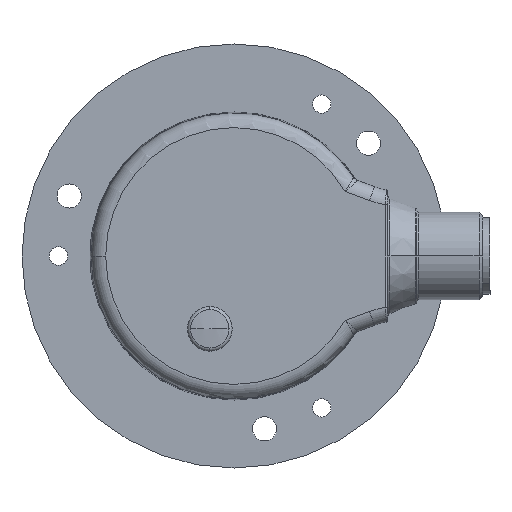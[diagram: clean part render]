
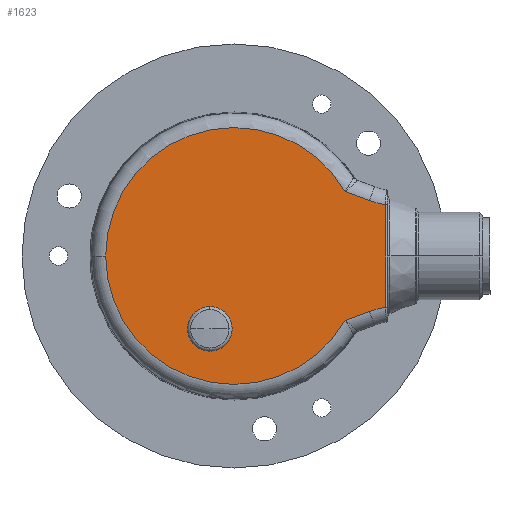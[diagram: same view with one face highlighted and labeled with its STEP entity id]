
A CAD part, left-side view. The second image highlights one B-rep face of the part: STEP entity #1623.
In plain terms, the highlighted planar face has unit normal (-1, 0, 0).
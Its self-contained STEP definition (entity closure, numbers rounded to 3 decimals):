
#195 = DIRECTION ( 'NONE',  ( -1., 0., 0. ) ) ;
#726 = DIRECTION ( 'NONE',  ( 0., 1., 0. ) ) ;
#797 = AXIS2_PLACEMENT_3D ( 'NONE', #17463, #5921, #8855 ) ;
#825 = DIRECTION ( 'NONE',  ( 0., 1., 0. ) ) ;
#1009 = FACE_OUTER_BOUND ( 'NONE', #10647, .T. ) ;
#1140 = LINE ( 'NONE', #6812, #1625 ) ;
#1284 = CARTESIAN_POINT ( 'NONE',  ( -41.6, -15.19, 8.804 ) ) ;
#1623 = ADVANCED_FACE ( 'NONE', ( #1009, #7918 ), #11155, .F. ) ;
#1625 = VECTOR ( 'NONE', #7163, 1000. ) ;
#1982 = CARTESIAN_POINT ( 'NONE',  ( -41.6, -15.19, -8.804 ) ) ;
#2181 = VERTEX_POINT ( 'NONE', #12690 ) ;
#2276 = CARTESIAN_POINT ( 'NONE',  ( -41.6, -20.75, -7.014 ) ) ;
#2326 = CIRCLE ( 'NONE', #797, 3.05 ) ;
#2546 = DIRECTION ( 'NONE',  ( 0., 1., 0. ) ) ;
#2549 = DIRECTION ( 'NONE',  ( 0., -0.94, 0.342 ) ) ;
#2642 = CARTESIAN_POINT ( 'NONE',  ( -41.6, -18.527, -7.59 ) ) ;
#2654 = DIRECTION ( 'NONE',  ( 0., 0.94, 0.342 ) ) ;
#2864 = CIRCLE ( 'NONE', #7669, 3.05 ) ;
#2911 = EDGE_CURVE ( 'NONE', #5812, #2181, #1140, .T. ) ;
#2912 = EDGE_CURVE ( 'NONE', #15222, #7705, #3753, .T. ) ;
#3134 = CARTESIAN_POINT ( 'NONE',  ( -41.6, 3.308, -9.965 ) ) ;
#3519 = VERTEX_POINT ( 'NONE', #11852 ) ;
#3714 = ORIENTED_EDGE ( 'NONE', *, *, #14957, .T. ) ;
#3753 = CIRCLE ( 'NONE', #15539, 17.557 ) ;
#3768 = DIRECTION ( 'NONE',  ( 1., 0., 0. ) ) ;
#4542 = CARTESIAN_POINT ( 'NONE',  ( -41.6, 3.308, -6.915 ) ) ;
#5215 = EDGE_CURVE ( 'NONE', #2181, #6363, #16317, .T. ) ;
#5385 = CIRCLE ( 'NONE', #17770, 12. ) ;
#5812 = VERTEX_POINT ( 'NONE', #2276 ) ;
#5901 = CARTESIAN_POINT ( 'NONE',  ( -41.6, 17.557, 0. ) ) ;
#5921 = DIRECTION ( 'NONE',  ( -1., 0., 0. ) ) ;
#6093 = ORIENTED_EDGE ( 'NONE', *, *, #8577, .T. ) ;
#6230 = DIRECTION ( 'NONE',  ( 1., 0., 0. ) ) ;
#6334 = CARTESIAN_POINT ( 'NONE',  ( -41.6, 3.308, -13.015 ) ) ;
#6363 = VERTEX_POINT ( 'NONE', #16423 ) ;
#6812 = CARTESIAN_POINT ( 'NONE',  ( -41.6, -20.75, 6.977 ) ) ;
#6902 = CARTESIAN_POINT ( 'NONE',  ( -41.6, 0., 0. ) ) ;
#7163 = DIRECTION ( 'NONE',  ( 0., 0., 1. ) ) ;
#7408 = VERTEX_POINT ( 'NONE', #6334 ) ;
#7669 = AXIS2_PLACEMENT_3D ( 'NONE', #3134, #195, #10338 ) ;
#7705 = VERTEX_POINT ( 'NONE', #1982 ) ;
#7918 = FACE_BOUND ( 'NONE', #18542, .T. ) ;
#8291 = DIRECTION ( 'NONE',  ( 1., 0., 0. ) ) ;
#8577 = EDGE_CURVE ( 'NONE', #3519, #5812, #5385, .T. ) ;
#8838 = ORIENTED_EDGE ( 'NONE', *, *, #12238, .F. ) ;
#8855 = DIRECTION ( 'NONE',  ( 0., 0., 1. ) ) ;
#8914 = EDGE_CURVE ( 'NONE', #6363, #12150, #9830, .T. ) ;
#8989 = CARTESIAN_POINT ( 'NONE',  ( -41.6, -22.631, -18.866 ) ) ;
#9815 = CARTESIAN_POINT ( 'NONE',  ( -41.6, 0., 0. ) ) ;
#9830 = LINE ( 'NONE', #15618, #17483 ) ;
#10061 = ORIENTED_EDGE ( 'NONE', *, *, #18430, .T. ) ;
#10338 = DIRECTION ( 'NONE',  ( 0., 0., 1. ) ) ;
#10647 = EDGE_LOOP ( 'NONE', ( #6093, #14851, #12179, #11188, #10061, #18460, #3714 ) ) ;
#10710 = AXIS2_PLACEMENT_3D ( 'NONE', #15326, #8291, #726 ) ;
#10872 = AXIS2_PLACEMENT_3D ( 'NONE', #18026, #3768, #825 ) ;
#11016 = EDGE_CURVE ( 'NONE', #7408, #15819, #2864, .T. ) ;
#11048 = AXIS2_PLACEMENT_3D ( 'NONE', #9815, #15603, #2546 ) ;
#11155 = PLANE ( 'NONE',  #10710 ) ;
#11188 = ORIENTED_EDGE ( 'NONE', *, *, #8914, .T. ) ;
#11852 = CARTESIAN_POINT ( 'NONE',  ( -41.6, -18.527, -7.59 ) ) ;
#12150 = VERTEX_POINT ( 'NONE', #1284 ) ;
#12179 = ORIENTED_EDGE ( 'NONE', *, *, #5215, .T. ) ;
#12238 = EDGE_CURVE ( 'NONE', #15819, #7408, #2326, .T. ) ;
#12561 = CIRCLE ( 'NONE', #11048, 17.557 ) ;
#12690 = CARTESIAN_POINT ( 'NONE',  ( -41.6, -20.75, 7.014 ) ) ;
#12692 = DIRECTION ( 'NONE',  ( -1., 0., 0. ) ) ;
#13806 = LINE ( 'NONE', #2642, #18663 ) ;
#14851 = ORIENTED_EDGE ( 'NONE', *, *, #2911, .T. ) ;
#14957 = EDGE_CURVE ( 'NONE', #7705, #3519, #13806, .T. ) ;
#15031 = ORIENTED_EDGE ( 'NONE', *, *, #11016, .F. ) ;
#15222 = VERTEX_POINT ( 'NONE', #5901 ) ;
#15326 = CARTESIAN_POINT ( 'NONE',  ( -41.6, 0., 0. ) ) ;
#15539 = AXIS2_PLACEMENT_3D ( 'NONE', #6902, #12692, #15804 ) ;
#15603 = DIRECTION ( 'NONE',  ( -1., 0., 0. ) ) ;
#15618 = CARTESIAN_POINT ( 'NONE',  ( -41.6, -15.841, 8.568 ) ) ;
#15804 = DIRECTION ( 'NONE',  ( 0., 1., 0. ) ) ;
#15819 = VERTEX_POINT ( 'NONE', #4542 ) ;
#16317 = CIRCLE ( 'NONE', #10872, 12. ) ;
#16423 = CARTESIAN_POINT ( 'NONE',  ( -41.6, -18.527, 7.59 ) ) ;
#17463 = CARTESIAN_POINT ( 'NONE',  ( -41.6, 3.308, -9.965 ) ) ;
#17483 = VECTOR ( 'NONE', #2654, 1000. ) ;
#17692 = DIRECTION ( 'NONE',  ( 0., 1., 0. ) ) ;
#17770 = AXIS2_PLACEMENT_3D ( 'NONE', #8989, #6230, #17692 ) ;
#18026 = CARTESIAN_POINT ( 'NONE',  ( -41.6, -22.631, 18.866 ) ) ;
#18430 = EDGE_CURVE ( 'NONE', #12150, #15222, #12561, .T. ) ;
#18460 = ORIENTED_EDGE ( 'NONE', *, *, #2912, .T. ) ;
#18542 = EDGE_LOOP ( 'NONE', ( #8838, #15031 ) ) ;
#18663 = VECTOR ( 'NONE', #2549, 1000. ) ;
